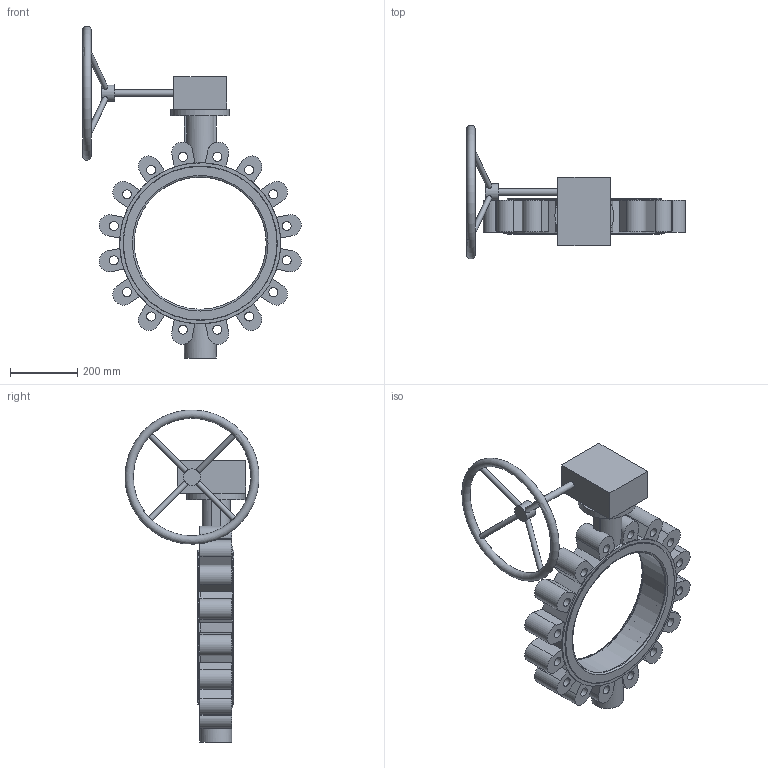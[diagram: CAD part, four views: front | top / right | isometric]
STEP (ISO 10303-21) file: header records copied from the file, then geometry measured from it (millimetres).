
FILE_DESCRIPTION (( 'STEP AP203' ), '1' );
FILE_NAME ('2502 LT型中线衬胶带销 手动头蝶阀 DN400 PN16 CD0309125.STEP', '2026-03-31T03:02:32', ( '' ), ( '' ), 'SwSTEP 2.0', 'SolidWorks 2018', '' );
FILE_SCHEMA (( 'CONFIG_CONTROL_DESIGN' ));
Length unit declared in the file: millimetre
Products named in the file (4): GALA-D400-04AZC-00; GALA-D400-01LC16-00; 2502 LT型中线衬胶带销 手动头蝶阀 DN400 PN16 CD0309125; 00. G100 手动头装配图 YN 简化
Assembly tree (3 placements, depth 2):
  2502 LT型中线衬胶带销 手动头蝶阀 DN400 PN16 CD0309125
    GALA-D400-04AZC-00
    GALA-D400-01LC16-00
    00. G100 手动头装配图 YN 简化
Bounding box: 651.19 x 399.32 x 989.49 mm (x, y, z)
Volume: 16448526.6 mm3; surface area: 1629649.3 mm2
Topology: 3 solids, 4 shells, 178 faces, 461 edges, 291 vertices
Faces by surface type: plane 90, cylinder 70, torus 10, cone 8
Full cylindrical faces by diameter (mm): 16 x4, 20 x1, 27 x16, 43.644 x1, 50 x1, 95 x1, 175 x1, 393.842 x1, 400 x1, 400.875 x1, 460 x3, 480 x1
Entity records: 10344 total; most frequent: CARTESIAN_POINT 5719, DIRECTION 908, ORIENTED_EDGE 794, EDGE_CURVE 397, AXIS2_PLACEMENT_3D 355, VERTEX_POINT 278, EDGE_LOOP 271, FACE_OUTER_BOUND 216
